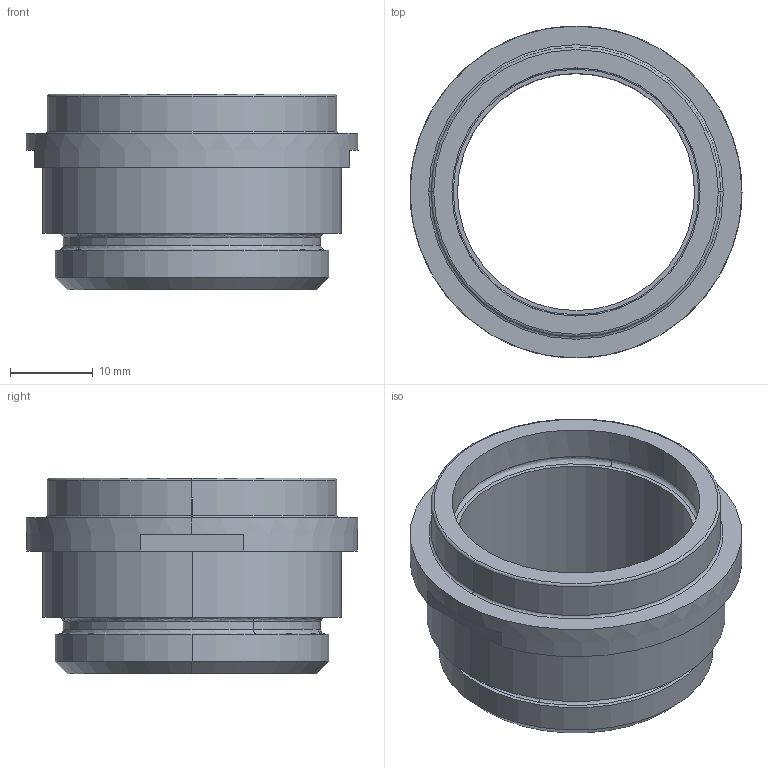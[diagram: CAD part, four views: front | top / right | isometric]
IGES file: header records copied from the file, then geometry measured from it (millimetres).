
Start section: START RECORD GO HERE.
Global section: file name: Bague coulissantePh30.igs; native system: IBM CATIA IGES - CATIA Version 5 Release 19 ; preprocessor: CATIA Version 5 Release 19 ; author: Laurent; organization: Laurent-PC; date: 20170126.150308; units: millimetre
Bounding box: 40 x 40 x 23.58 mm (x, y, z)
Surface area: 6021.7 mm2 (no closed solid volume)
Topology: 0 solids, 0 shells, 39 faces, 168 edges, 168 vertices
Faces by surface type: revolution 28, plane 11
